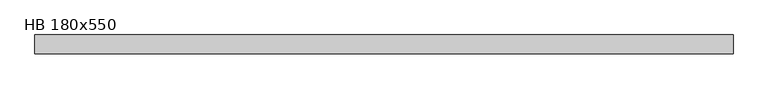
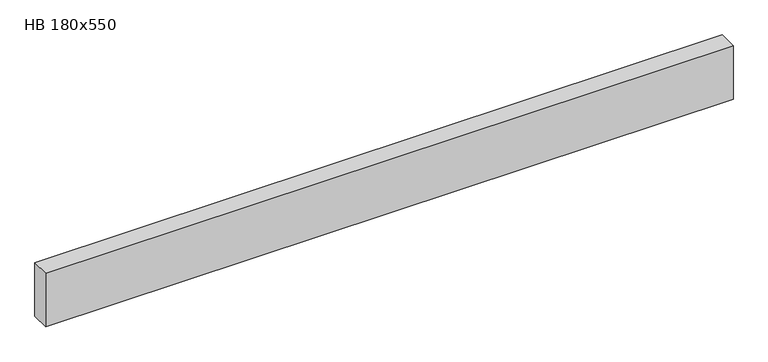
"""IFC4 building model written with IfcOpenShell, lengths in millimetres: beam geometry, NLRS_28_SF_LIB_balk hout gelamineerd_generiek_ISR : HB 180x550."""

from ifc_helpers import new_model, si_unit, frame, origin, place, context, project, spatial, polyline, outline, extrude, source, transform, mapped, element, save


def hb_180x550_4b15fb5d(model_context):
    return source(origin(), model_context, "Body", "SweptSolid", [
        extrude(outline(polyline([(3336.8668409, 90.0), (3336.8668409, -90.0), (-3329.6411177, -90.0), (-3329.6411177, 90.0), (3336.8668409, 90.0)])), frame((0.0, 0.0, -275.0), z_axis=(0.0, 0.0, 1.0), x_axis=(1.0, 0.0, 0.0)), (0.0, 0.0, 1.0), 550.0),
    ])


if __name__ == "__main__":
    model = new_model("IFC4")
    model_context = context("Model", 3, world=origin())
    ifc_project = project(units=[si_unit("LENGTHUNIT", "METRE", prefix="MILLI")], contexts=[model_context])
    site = spatial("IfcSite", under=ifc_project)
    building = spatial("IfcBuilding", under=site)
    placement = place(None, origin())
    hb_180x550_shape = hb_180x550_4b15fb5d(model_context)
    element("IfcBeam", 1, ObjectType="NLRS_28_SF_LIB_balk hout gelamineerd_generiek_ISR : HB 180x550", at=placement, inside=building, context=model_context, shape_type="MappedRepresentation", body=[
        mapped(hb_180x550_shape, transform((0.0, 0.0, 0.0), x_axis=(1.0, 0.0, 0.0), y_axis=(0.0, 1.0, 0.0), z_axis=(0.0, 0.0, 1.0))),
    ])
    save(model, "model.ifc")
